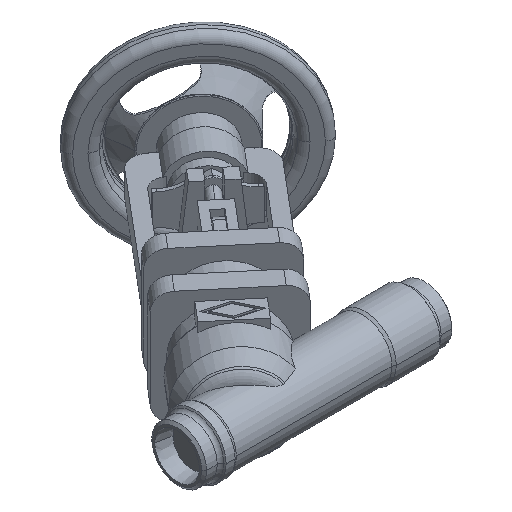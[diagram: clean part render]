
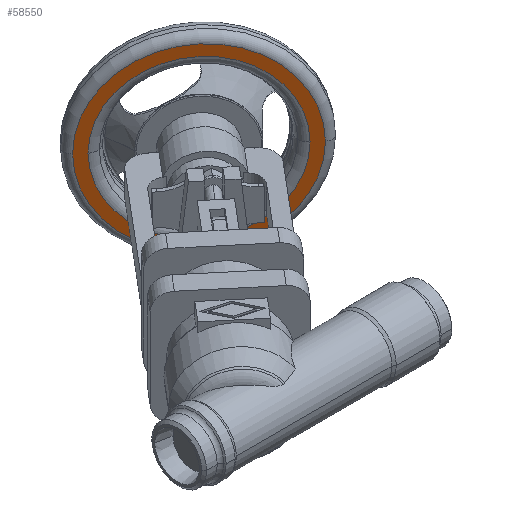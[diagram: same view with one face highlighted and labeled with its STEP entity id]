
A CAD part, isometric view. The second image highlights one B-rep face of the part: STEP entity #58550.
In plain terms, the highlighted planar face has unit normal (-0.643, -0.766, 0).
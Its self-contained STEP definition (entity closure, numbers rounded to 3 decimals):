
#57900=CARTESIAN_POINT('',(222.297,127.203,0.));
#57910=VERTEX_POINT('',#57900);
#58000=CARTESIAN_POINT('',(134.202,201.124,0.));
#58010=VERTEX_POINT('',#58000);
#58040=CARTESIAN_POINT('',(178.249,164.163,0.));
#58050=DIRECTION('',(0.643,0.766,0.));
#58060=DIRECTION('',(-0.766,0.643,
0.));
#58070=AXIS2_PLACEMENT_3D('',#58040,#58050,#58060);
#58080=CIRCLE('',#58070,57.5);
#58090=CARTESIAN_POINT('',(178.249,164.163,-57.5));
#58100=VERTEX_POINT('',#58090);
#58110=EDGE_CURVE('',#58100,#58010,#58080,.T.);
#58130=EDGE_CURVE('',#57910,#58100,#58080,.T.);
#58250=CARTESIAN_POINT('',(136.883,198.874,
0.));
#58260=DIRECTION('',(-0.643,-0.766,0.));
#58270=DIRECTION('',(0.766,-0.643,
0.));
#58280=AXIS2_PLACEMENT_3D('',#58250,#58260,#58270);
#58290=PLANE('',#58280);
#58300=ORIENTED_EDGE('',*,*,#58110,.F.);
#58310=EDGE_CURVE('',#58010,#57910,#58080,.T.);
#58320=ORIENTED_EDGE('',*,*,#58310,.F.);
#58330=ORIENTED_EDGE('',*,*,#58130,.F.);
#58340=EDGE_LOOP('',(#58330,#58320,#58300));
#58350=FACE_OUTER_BOUND('',#58340,.T.);
#58360=CARTESIAN_POINT('',(178.249,164.163,0.));
#58370=DIRECTION('',(0.643,0.766,0.));
#58380=DIRECTION('',(-0.766,0.643,
0.));
#58390=AXIS2_PLACEMENT_3D('',#58360,#58370,#58380);
#58400=CIRCLE('',#58390,50.5);
#58410=CARTESIAN_POINT('',(216.935,131.703,0.));
#58420=VERTEX_POINT('',#58410);
#58430=CARTESIAN_POINT('',(139.564,196.624,0.));
#58440=VERTEX_POINT('',#58430);
#58450=EDGE_CURVE('',#58420,#58440,#58400,.T.);
#58460=ORIENTED_EDGE('',*,*,#58450,.T.);
#58470=CARTESIAN_POINT('',(178.249,164.163,50.5));
#58480=VERTEX_POINT('',#58470);
#58490=EDGE_CURVE('',#58480,#58420,#58400,.T.);
#58500=ORIENTED_EDGE('',*,*,#58490,.T.);
#58510=EDGE_CURVE('',#58440,#58480,#58400,.T.);
#58520=ORIENTED_EDGE('',*,*,#58510,.T.);
#58530=EDGE_LOOP('',(#58520,#58500,#58460));
#58540=FACE_BOUND('',#58530,.T.);
#58550=ADVANCED_FACE('',(#58350,#58540),#58290,.T.);
